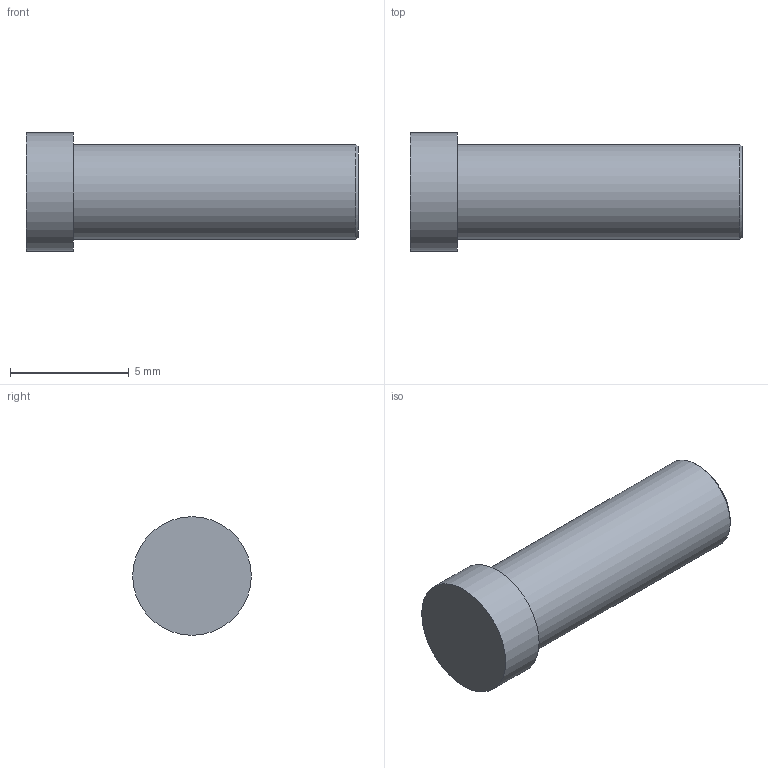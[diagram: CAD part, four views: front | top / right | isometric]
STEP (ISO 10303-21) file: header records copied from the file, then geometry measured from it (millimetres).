
FILE_DESCRIPTION(/* description */ ('LWL_Typ-B_3.0'),/* implementation_level */ '2;1');
FILE_NAME(/* name */ 'T:\E-Mail-Zeichnungen\STEP\HOMEPAGE\LWL_Typ-B_3.0.stp',/* time_stamp */ '2015-04-20T12:16:57+02:00',/* author */ ('simone.schrank'),/* organization */ (''),/* preprocessor_version */ 'ST-DEVELOPER v15.6',/* originating_system */ 'Autodesk Inventor 2015',/* authorisation */ '');
FILE_SCHEMA (('AUTOMOTIVE_DESIGN { 1 0 10303 214 3 1 1 }'));
Length unit declared in the file: millimetre
Products named in the file (1): LWL_Typ-B_3.0
Bounding box: 14 x 5 x 5 mm (x, y, z)
Volume: 190 mm3; surface area: 220.8 mm2
Topology: 1 solids, 1 shells, 8 faces, 11 edges, 7 vertices
Faces by surface type: plane 4, cylinder 3, cone 1
Full cylindrical faces by diameter (mm): 2.5 x1, 4 x1, 5 x1
Entity records: 199 total; most frequent: DIRECTION 32, CARTESIAN_POINT 23, AXIS2_PLACEMENT_3D 16, EDGE_LOOP 14, ORIENTED_EDGE 14, FACE_OUTER_BOUND 8, STYLED_ITEM 8, ADVANCED_FACE 8
